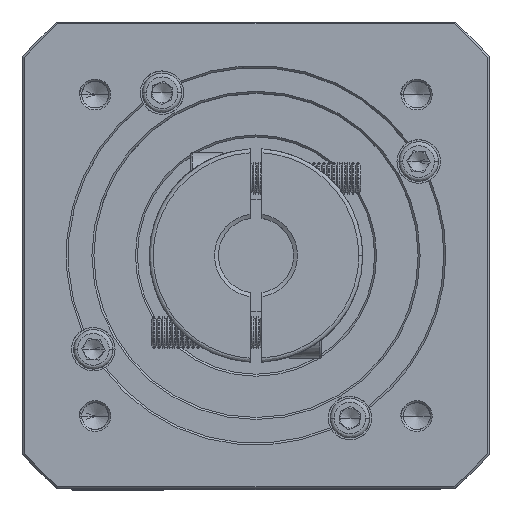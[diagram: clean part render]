
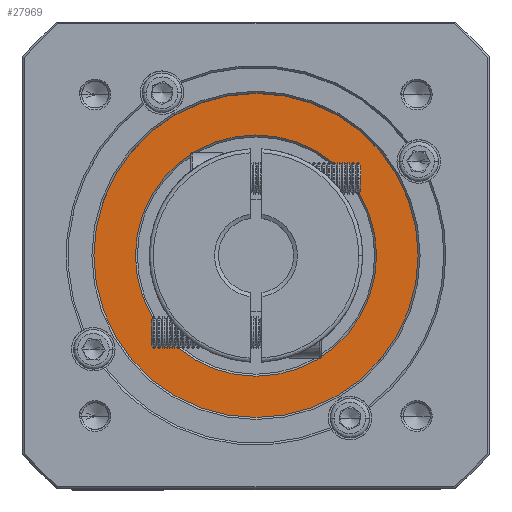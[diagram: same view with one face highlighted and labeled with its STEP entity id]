
A CAD part, top view. The second image highlights one B-rep face of the part: STEP entity #27969.
In plain terms, the highlighted planar face has unit normal (0, 0, 1).
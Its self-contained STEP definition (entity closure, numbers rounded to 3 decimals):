
#2598 = EDGE_LOOP ( 'NONE', ( #88958, #33948 ) ) ;
#4526 = CARTESIAN_POINT ( 'NONE',  ( 72.343, -80.873, -54.022 ) ) ;
#5586 = DIRECTION ( 'NONE',  ( 0., 0., -1. ) ) ;
#5985 = CARTESIAN_POINT ( 'NONE',  ( 72.343, -50.373, -54.022 ) ) ;
#7168 = DIRECTION ( 'NONE',  ( 0., 0., 1. ) ) ;
#7375 = EDGE_CURVE ( 'NONE', #42078, #71300, #96108, .T. ) ;
#9483 = AXIS2_PLACEMENT_3D ( 'NONE', #106434, #7168, #106022 ) ;
#11779 = FACE_BOUND ( 'NONE', #61500, .T. ) ;
#13530 = DIRECTION ( 'NONE',  ( 0., 0., -1. ) ) ;
#19422 = CARTESIAN_POINT ( 'NONE',  ( 113.343, -80.873, -54.022 ) ) ;
#27556 = CIRCLE ( 'NONE', #54057, 30.5 ) ;
#27969 = ADVANCED_FACE ( 'NONE', ( #83665, #11779 ), #103238, .T. ) ;
#31911 = AXIS2_PLACEMENT_3D ( 'NONE', #40692, #94593, #115719 ) ;
#33948 = ORIENTED_EDGE ( 'NONE', *, *, #56975, .T. ) ;
#38525 = VERTEX_POINT ( 'NONE', #5985 ) ;
#38867 = CARTESIAN_POINT ( 'NONE',  ( 72.343, -80.873, -54.022 ) ) ;
#40397 = CIRCLE ( 'NONE', #9483, 41. ) ;
#40692 = CARTESIAN_POINT ( 'NONE',  ( 72.343, -80.873, -54.022 ) ) ;
#40844 = CIRCLE ( 'NONE', #53966, 30.5 ) ;
#41035 = CARTESIAN_POINT ( 'NONE',  ( 72.343, -80.873, -54.022 ) ) ;
#42078 = VERTEX_POINT ( 'NONE', #19422 ) ;
#43155 = CARTESIAN_POINT ( 'NONE',  ( 72.343, -111.373, -54.022 ) ) ;
#53966 = AXIS2_PLACEMENT_3D ( 'NONE', #4526, #13530, #86752 ) ;
#54057 = AXIS2_PLACEMENT_3D ( 'NONE', #41035, #5586, #58793 ) ;
#56975 = EDGE_CURVE ( 'NONE', #71300, #42078, #40397, .T. ) ;
#58793 = DIRECTION ( 'NONE',  ( 0., -1., 0. ) ) ;
#61500 = EDGE_LOOP ( 'NONE', ( #71013, #75791 ) ) ;
#66020 = DIRECTION ( 'NONE',  ( 0., 0., 1. ) ) ;
#71013 = ORIENTED_EDGE ( 'NONE', *, *, #72847, .T. ) ;
#71300 = VERTEX_POINT ( 'NONE', #98742 ) ;
#72847 = EDGE_CURVE ( 'NONE', #83291, #38525, #27556, .T. ) ;
#75791 = ORIENTED_EDGE ( 'NONE', *, *, #107340, .T. ) ;
#80213 = AXIS2_PLACEMENT_3D ( 'NONE', #38867, #66020, #93527 ) ;
#83291 = VERTEX_POINT ( 'NONE', #43155 ) ;
#83665 = FACE_OUTER_BOUND ( 'NONE', #2598, .T. ) ;
#86752 = DIRECTION ( 'NONE',  ( 0., -1., 0. ) ) ;
#88958 = ORIENTED_EDGE ( 'NONE', *, *, #7375, .T. ) ;
#93527 = DIRECTION ( 'NONE',  ( 1., 0., 0. ) ) ;
#94593 = DIRECTION ( 'NONE',  ( 0., 0., 1. ) ) ;
#96108 = CIRCLE ( 'NONE', #80213, 41. ) ;
#98742 = CARTESIAN_POINT ( 'NONE',  ( 31.343, -80.873, -54.022 ) ) ;
#103238 = PLANE ( 'NONE',  #31911 ) ;
#106022 = DIRECTION ( 'NONE',  ( 1., 0., 0. ) ) ;
#106434 = CARTESIAN_POINT ( 'NONE',  ( 72.343, -80.873, -54.022 ) ) ;
#107340 = EDGE_CURVE ( 'NONE', #38525, #83291, #40844, .T. ) ;
#115719 = DIRECTION ( 'NONE',  ( 1., 0., 0. ) ) ;
